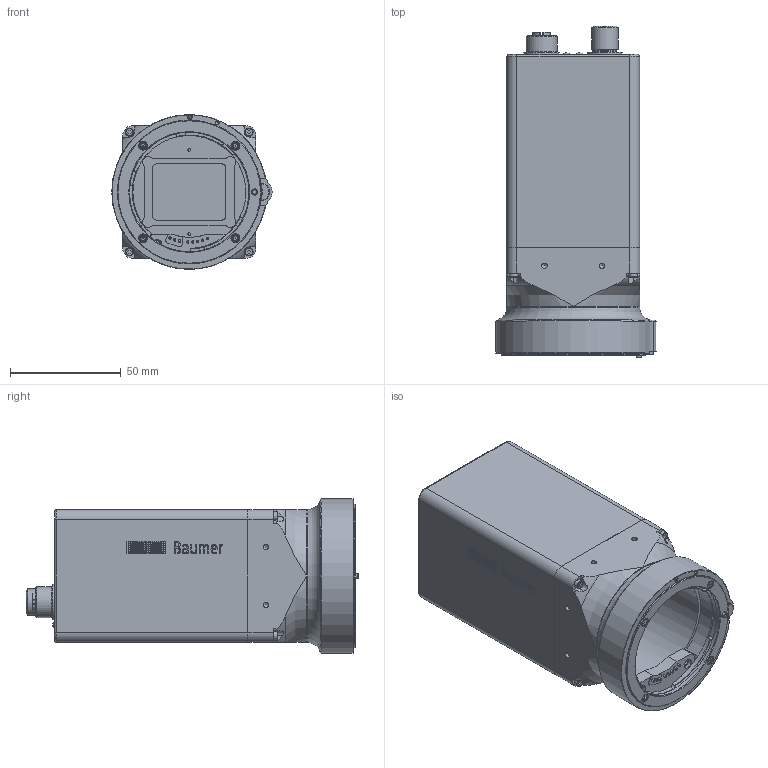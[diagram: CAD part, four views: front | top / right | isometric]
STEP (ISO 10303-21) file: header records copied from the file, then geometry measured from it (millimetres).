
FILE_DESCRIPTION(/* description */ ('Unknown'),/* implementation_level */ '2;1');
FILE_NAME(/* name */ 'DBG VLXT-650M.EF STEP',/* time_stamp */ '2021-03-05T13:31:21+01:00',/* author */ ('Unknown'),/* organization */ ('Baumer'),/* preprocessor_version */ 'ST-DEVELOPER v16.7',/* originating_system */ 'Solid Edge',/* authorisation */ 'Unknown');
FILE_SCHEMA (('AUTOMOTIVE_DESIGN {1 0 10303 214 3 1 1}'));
Length unit declared in the file: millimetre
Products named in the file (1): DBG VLXT-650M.EF STEP
Bounding box: 72.49 x 150 x 69.98 mm (x, y, z)
Volume: 395455.1 mm3; surface area: 57545.5 mm2
Topology: 1 solids, 18 shells, 1635 faces, 3613 edges, 2361 vertices
Faces by surface type: plane 740, cylinder 650, torus 88, cone 68, bspline 65, sphere 24
Full cylindrical faces by diameter (mm): 0.306 x20, 0.385 x20, 0.464 x20, 0.542 x20, 0.621 x20, 0.63 x12, 0.699 x20, 0.7 x8, 0.778 x20, 0.856 x20, 1.07 x16, 1.2 x3, 1.221 x2, 1.24 x8, 1.5 x2, 2 x10, 2.175 x1, 2.2 x4, 2.25 x1, 2.3 x2, 2.4 x4, 2.459 x20, 3.4 x2, 3.5 x4, 3.8 x6, 4 x4, 4.4 x2, 7.95 x1, 8 x2, 8.008 x1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
Entity records: 56568 total; most frequent: CARTESIAN_POINT 10491, DIRECTION 7433, ORIENTED_EDGE 6126, EDGE_CURVE 3063, AXIS2_PLACEMENT_3D 3007, FACE_BOUND 2455, EDGE_LOOP 2443, VERTEX_POINT 2248
